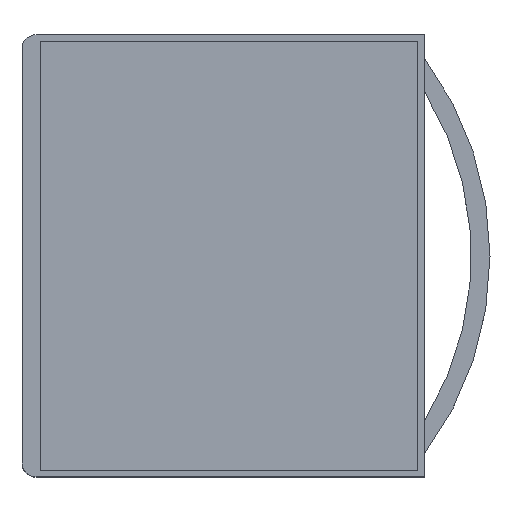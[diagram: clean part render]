
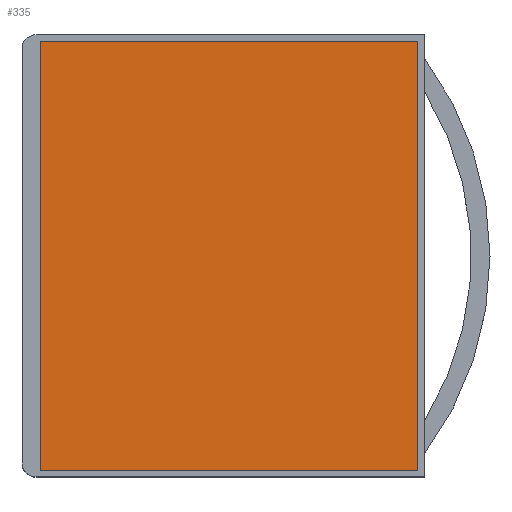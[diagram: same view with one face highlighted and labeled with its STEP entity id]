
A CAD part, top view. The second image highlights one B-rep face of the part: STEP entity #335.
In plain terms, the highlighted planar face has unit normal (0, 0, 1).
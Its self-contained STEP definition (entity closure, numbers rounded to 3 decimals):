
#28=PLANE('',#377);
#46=FACE_OUTER_BOUND('',#65,.T.);
#65=EDGE_LOOP('',(#296,#297,#298,#299));
#96=LINE('',#550,#131);
#99=LINE('',#555,#134);
#101=LINE('',#559,#136);
#103=LINE('',#562,#138);
#131=VECTOR('',#452,10.);
#134=VECTOR('',#457,10.);
#136=VECTOR('',#461,10.);
#138=VECTOR('',#465,10.);
#176=VERTEX_POINT('',#548);
#177=VERTEX_POINT('',#549);
#178=VERTEX_POINT('',#554);
#179=VERTEX_POINT('',#558);
#216=EDGE_CURVE('',#176,#177,#96,.F.);
#219=EDGE_CURVE('',#177,#178,#99,.F.);
#221=EDGE_CURVE('',#178,#179,#101,.F.);
#223=EDGE_CURVE('',#179,#176,#103,.F.);
#296=ORIENTED_EDGE('',*,*,#221,.T.);
#297=ORIENTED_EDGE('',*,*,#223,.T.);
#298=ORIENTED_EDGE('',*,*,#216,.T.);
#299=ORIENTED_EDGE('',*,*,#219,.T.);
#335=ADVANCED_FACE('',(#46),#28,.F.);
#377=AXIS2_PLACEMENT_3D('',#563,#466,#467);
#452=DIRECTION('',(0.,1.,0.));
#457=DIRECTION('',(-1.,0.,0.));
#461=DIRECTION('',(0.,-1.,0.));
#465=DIRECTION('',(1.,0.,0.));
#466=DIRECTION('center_axis',(0.,0.,-1.));
#467=DIRECTION('ref_axis',(0.,1.,0.));
#548=CARTESIAN_POINT('',(8.,45.85,-21.35));
#549=CARTESIAN_POINT('',(8.,-45.85,-21.35));
#550=CARTESIAN_POINT('',(8.,-46.55,-21.35));
#554=CARTESIAN_POINT('',(88.6,-45.85,-21.35));
#555=CARTESIAN_POINT('',(46.3,-45.85,-21.35));
#558=CARTESIAN_POINT('',(88.6,45.85,-21.35));
#559=CARTESIAN_POINT('',(88.6,-0.7,-21.35));
#562=CARTESIAN_POINT('',(6.,45.85,-21.35));
#563=CARTESIAN_POINT('Origin',(4.,-47.25,-21.35));
